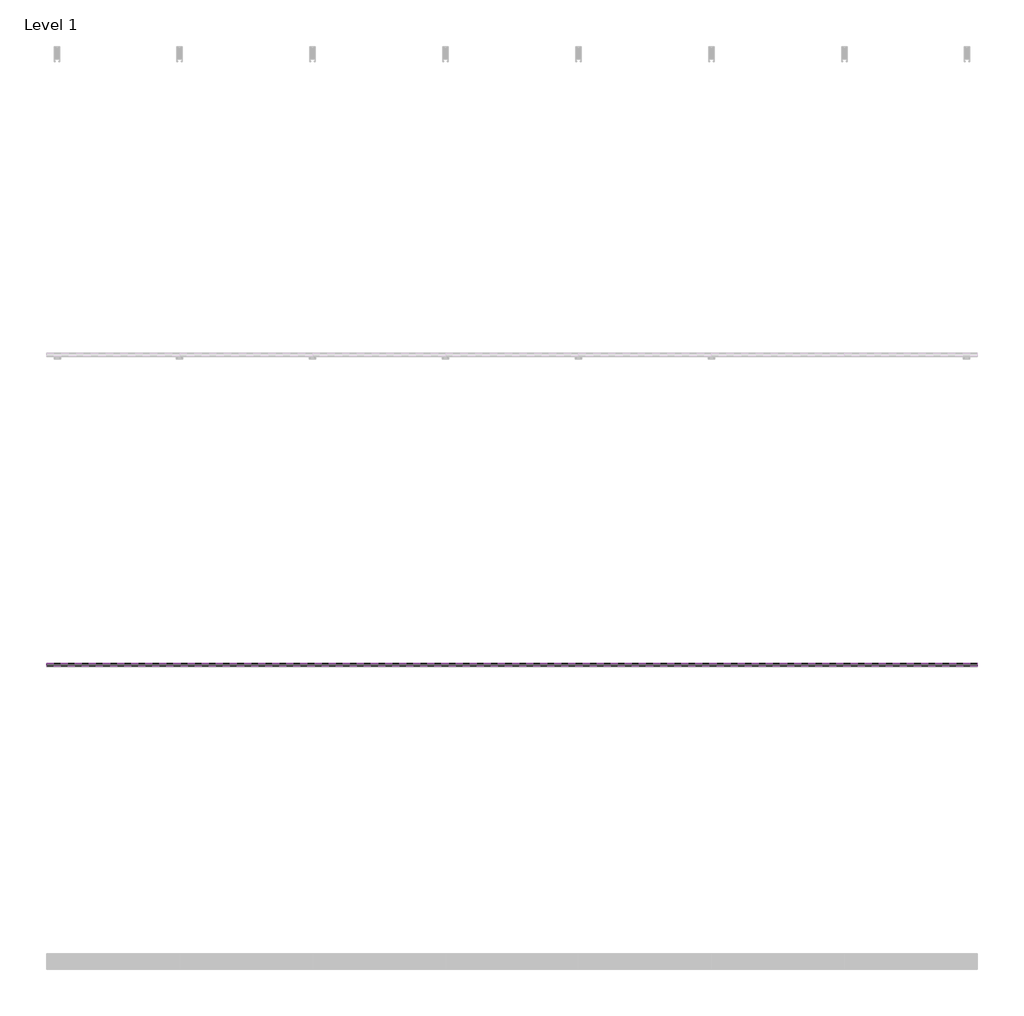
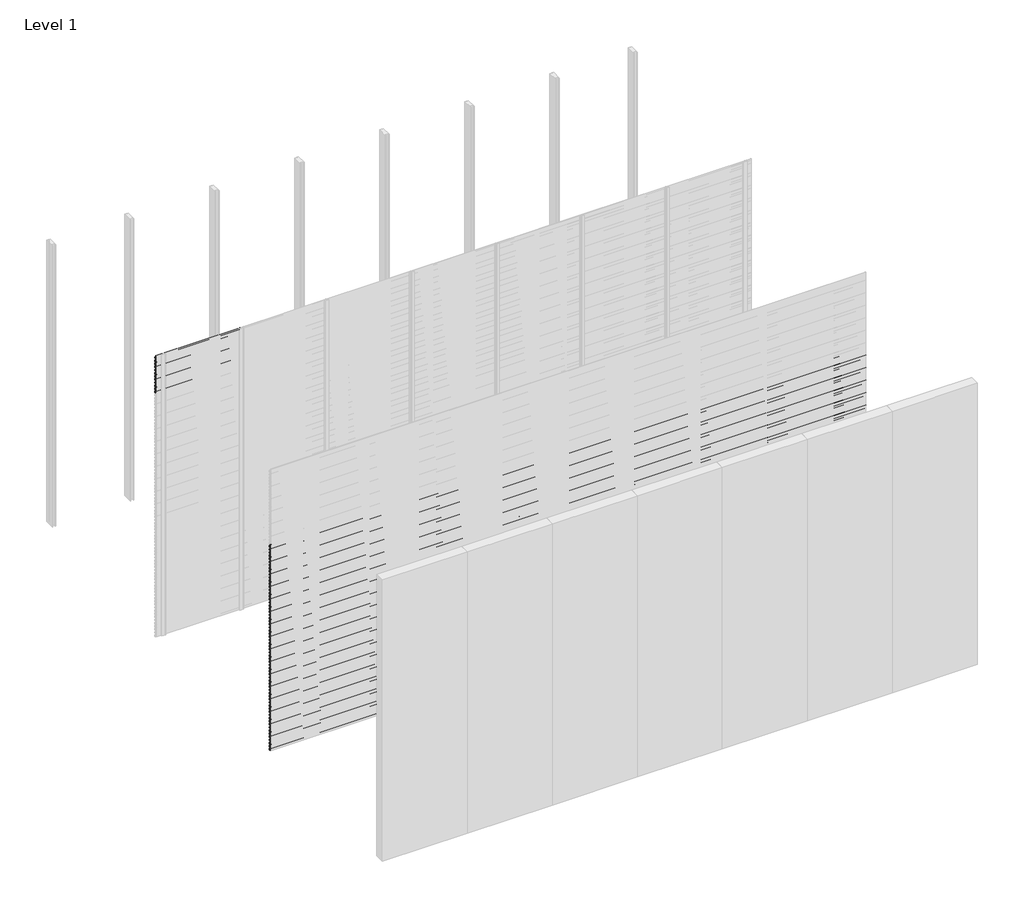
# One storey, part 51 of 96: 78 proxies.
"""IFC4 building model written with IfcOpenShell, lengths in millimetres."""

import ifcopenshell
import ifcopenshell.guid

model = None  # the IFC model being written
_history = None  # IfcOwnerHistory: only IFC2X3 demands one
_inside = {}  # id of a spatial element -> (the spatial element, [elements in it])
_under = {}  # id of a project, library or spatial element -> (it, [spatial elements below it])
_declared = {}  # id of a project -> (the project, [libraries it declares])
_typed = {}  # id of a type object -> (the type object, [elements of that type])
_made_of = {}  # id of a material, layer set ... -> (it, [elements and type objects made of it])


def new_model(schema):
    """Start an empty IFC model of exactly this schema.

    Asked for "IFC4X3", IfcOpenShell would pick the latest addendum, in which some entities
    have other attributes; the version numbers below select the first issue.
    IFC2X3 requires an IfcOwnerHistory on every rooted entity: one is made here for all.
    """
    global model, _history
    if schema == "IFC4X3":
        model = ifcopenshell.file(schema_version=(4, 3, 0, 0))
    else:
        model = ifcopenshell.file(schema=schema)
    _inside.clear()
    _under.clear()
    _declared.clear()
    _typed.clear()
    _made_of.clear()
    _history = None
    if model.schema == "IFC2X3":
        org = make("IfcOrganization", Name="unknown")
        user = make(
            "IfcPersonAndOrganization",
            ThePerson=make("IfcPerson", FamilyName="unknown"),
            TheOrganization=org,
        )
        app = make(
            "IfcApplication",
            ApplicationDeveloper=org,
            Version="unknown",
            ApplicationFullName="unknown",
            ApplicationIdentifier="unknown",
        )
        _history = make(
            "IfcOwnerHistory",
            OwningUser=user,
            OwningApplication=app,
            ChangeAction="ADDED",
            CreationDate=0,
        )
    return model


def make(cls, **values):
    """One entity of the class cls with the attributes given. An attribute that is None is left unset."""
    return model.create_entity(
        cls, **{name: value for name, value in values.items() if value is not None}
    )


def rooted(cls, **values):
    """An entity with a GlobalId (a new one), such as an element, a storey or a relation."""
    return make(cls, GlobalId=ifcopenshell.guid.new(), OwnerHistory=_history, **values)


def si_unit(unit_type, name, prefix=None):
    """IfcSIUnit, for example si_unit("LENGTHUNIT", "METRE", prefix="MILLI")."""
    return make("IfcSIUnit", UnitType=unit_type, Prefix=prefix, Name=name)


def assignment(units):
    """IfcUnitAssignment: the units of a project."""
    return None if units is None else make("IfcUnitAssignment", Units=units)


def point(xyz):
    """IfcCartesianPoint."""
    return None if xyz is None else make("IfcCartesianPoint", Coordinates=xyz)


def direction(xyz):
    """IfcDirection."""
    return None if xyz is None else make("IfcDirection", DirectionRatios=xyz)


def frame(location, z_axis=None, x_axis=None):
    """IfcAxis2Placement3D, a coordinate frame: its origin and axes. An axis left out is left unset."""
    return make(
        "IfcAxis2Placement3D",
        Location=point(location),
        Axis=direction(z_axis),
        RefDirection=direction(x_axis),
    )


def origin():
    """The frame at (0, 0, 0) with its axes left unset."""
    return frame((0.0, 0.0, 0.0))


def place(relative_to, where):
    """IfcLocalPlacement: puts the frame where relative to a parent placement (None: the world)."""
    return make(
        "IfcLocalPlacement", PlacementRelTo=relative_to, RelativePlacement=where
    )


def context(
    kind, dimensions, precision=None, world=None, true_north=None, identifier=None
):
    """IfcGeometricRepresentationContext, for example the 3D "Model" context."""
    return make(
        "IfcGeometricRepresentationContext",
        ContextIdentifier=identifier,
        ContextType=kind,
        CoordinateSpaceDimension=dimensions,
        Precision=precision,
        WorldCoordinateSystem=world,
        TrueNorth=true_north,
    )


def project(units=None, contexts=None):
    """IfcProject with its units and contexts."""
    return rooted(
        "IfcProject",
        Name="project",
        RepresentationContexts=contexts,
        UnitsInContext=assignment(units),
    )


def spatial(cls, under=None, at=None, **own):
    """A site, building, storey or space (cls), placed at a placement, below another one or the project."""
    s = rooted(cls, ObjectPlacement=at, **own)
    if under is not None:
        _under.setdefault(under.id(), (under, []))[1].append(s)
    return s


def polyline(points):
    """IfcPolyline through the points."""
    return make("IfcPolyline", Points=[point(p) for p in points])


def outline(outer, holes=None, kind="AREA"):
    """IfcArbitraryClosedProfileDef: a profile drawn as a closed curve; with holes, ...WithVoids."""
    if holes is None:
        return make("IfcArbitraryClosedProfileDef", ProfileType=kind, OuterCurve=outer)
    return make(
        "IfcArbitraryProfileDefWithVoids",
        ProfileType=kind,
        OuterCurve=outer,
        InnerCurves=holes,
    )


def extrude(swept, where, along, depth):
    """IfcExtrudedAreaSolid: the profile swept, set in the frame where, extruded along a direction by depth."""
    return make(
        "IfcExtrudedAreaSolid",
        SweptArea=swept,
        Position=where,
        ExtrudedDirection=direction(along),
        Depth=depth,
    )


def shape(context_of_items, identifier, shape_type, items):
    """IfcShapeRepresentation: the items that make up one representation, for example the "Body"."""
    return make(
        "IfcShapeRepresentation",
        ContextOfItems=context_of_items,
        RepresentationIdentifier=identifier,
        RepresentationType=shape_type,
        Items=items,
    )


def made_of(thing, what):
    """Note that an element or type object is made of a material, layer set ...; save() writes the relation."""
    if what is not None:
        _made_of.setdefault(what.id(), (what, []))[1].append(thing)
    return thing


def element(
    cls,
    number,
    at=None,
    inside=None,
    cuts=None,
    type_object=None,
    material=None,
    context=None,
    identifier="Body",
    shape_type=None,
    held_by="IfcProductDefinitionShape",
    body=None,
    shapes=None,
    **own,
):
    """One element of the class cls, such as IfcWall. Its Tag is "e" and its number.

    at: its placement. inside: the storey or other place that contains it. cuts: it is an
    opening in that element (IfcRelVoidsElement). A single representation is given by context,
    identifier, shape_type and body (its items); several are given by shapes. held_by: the class
    of the entity that holds the representations. save() writes the other relations.
    """
    e = rooted(cls, Tag="e%d" % number, ObjectPlacement=at, **own)
    if body is not None:
        shapes = [shape(context, identifier, shape_type, body)]
    if shapes is not None:
        e.Representation = make(held_by, Representations=shapes)
    if inside is not None:
        _inside.setdefault(inside.id(), (inside, []))[1].append(e)
    if cuts is not None:
        rooted(
            "IfcRelVoidsElement", RelatingBuildingElement=cuts, RelatedOpeningElement=e
        )
    if type_object is not None:
        _typed.setdefault(type_object.id(), (type_object, []))[1].append(e)
    return made_of(e, material)


def aggregate(whole, parts):
    """IfcRelAggregates: a whole, such as a stair, and the parts it consists of."""
    return rooted("IfcRelAggregates", RelatingObject=whole, RelatedObjects=parts)


def save(model, path):
    """Write the relations noted so far, then the file.

    IfcRelAggregates (storeys below a building ...), IfcRelContainedInSpatialStructure (elements
    in a storey), IfcRelDefinesByType, IfcRelAssociatesMaterial and IfcRelDeclares: one each for
    every whole, place, type object, material and project.
    """
    for whole, parts in _under.values():
        aggregate(whole, parts)
    for where, things in _inside.values():
        rooted(
            "IfcRelContainedInSpatialStructure",
            RelatedElements=things,
            RelatingStructure=where,
        )
    for kind, things in _typed.values():
        rooted("IfcRelDefinesByType", RelatedObjects=things, RelatingType=kind)
    for what, things in _made_of.values():
        rooted("IfcRelAssociatesMaterial", RelatedObjects=things, RelatingMaterial=what)
    for by, libraries in _declared.values():
        rooted("IfcRelDeclares", RelatingContext=by, RelatedDefinitions=libraries)
    model.write(path)


model = new_model("IFC4")

# Units and contexts
model_context = context("Model", 3, world=origin())
ifc_project = project(units=[si_unit("LENGTHUNIT", "METRE", prefix="MILLI")], contexts=[model_context])

# Site, building, storey
site = spatial("IfcSite", under=ifc_project)
building = spatial("IfcBuilding", under=site)
storey = spatial("IfcBuildingStorey", under=building, Name="Level 1", Elevation=0.0)

# Proxies
placement = place(None, origin())
element("IfcBuildingElementProxy", 1, Name="Wall Sweeps", at=placement, inside=storey, context=model_context, shape_type="SweptSolid", body=[
    extrude(outline(polyline([(-23977.6, 2971.7655033), (-23977.6, 2957.4779188), (-23982.4114965, 2954.7), (-23982.4114965, 2955.9701706), (-23978.85, 2958.0264016), (-23978.85, 2971.0437382), (-23998.0, 2982.1000799), (-23998.0, 2997.0), (-23996.75, 2997.0), (-23996.75, 2982.8217609), (-23977.6, 2971.7655033)])), frame((0.0, 0.0, 0.0), z_axis=(1.0, 0.0, 0.0), x_axis=(0.0, 1.0, 0.0)), (0.0, 0.0, 1.0), 857.1428571),
])
element("IfcBuildingElementProxy", 2, Name="Wall Sweeps", at=placement, inside=storey, context=model_context, shape_type="SweptSolid", body=[
    extrude(outline(polyline([(-23977.6, 2938.4655033), (-23977.6, 2924.1779188), (-23982.4114965, 2921.4), (-23982.4114965, 2922.6701706), (-23978.85, 2924.7264016), (-23978.85, 2937.7437382), (-23998.0, 2948.8000799), (-23998.0, 2963.7), (-23996.75, 2963.7), (-23996.75, 2949.5217609), (-23977.6, 2938.4655033)])), frame((0.0, 0.0, 0.0), z_axis=(1.0, 0.0, 0.0), x_axis=(0.0, 1.0, 0.0)), (0.0, 0.0, 1.0), 857.1428571),
])
element("IfcBuildingElementProxy", 3, Name="Wall Sweeps", at=placement, inside=storey, context=model_context, shape_type="SweptSolid", body=[
    extrude(outline(polyline([(-23977.6, 2905.1655033), (-23977.6, 2890.8779188), (-23982.4114965, 2888.1), (-23982.4114965, 2889.3701706), (-23978.85, 2891.4264016), (-23978.85, 2904.4437382), (-23998.0, 2915.5000799), (-23998.0, 2930.4), (-23996.75, 2930.4), (-23996.75, 2916.2217609), (-23977.6, 2905.1655033)])), frame((0.0, 0.0, 0.0), z_axis=(1.0, 0.0, 0.0), x_axis=(0.0, 1.0, 0.0)), (0.0, 0.0, 1.0), 857.1428571),
])
element("IfcBuildingElementProxy", 4, Name="Wall Sweeps", at=placement, inside=storey, context=model_context, shape_type="SweptSolid", body=[
    extrude(outline(polyline([(-23977.6, 2871.8655033), (-23977.6, 2857.5779188), (-23982.4114965, 2854.8), (-23982.4114965, 2856.0701706), (-23978.85, 2858.1264016), (-23978.85, 2871.1437382), (-23998.0, 2882.2000799), (-23998.0, 2897.1), (-23996.75, 2897.1), (-23996.75, 2882.9217609), (-23977.6, 2871.8655033)])), frame((0.0, 0.0, 0.0), z_axis=(1.0, 0.0, 0.0), x_axis=(0.0, 1.0, 0.0)), (0.0, 0.0, 1.0), 857.1428571),
])
element("IfcBuildingElementProxy", 5, Name="Wall Sweeps", at=placement, inside=storey, context=model_context, shape_type="SweptSolid", body=[
    extrude(outline(polyline([(-23977.6, 2838.5655033), (-23977.6, 2824.2779188), (-23982.4114965, 2821.5), (-23982.4114965, 2822.7701706), (-23978.85, 2824.8264016), (-23978.85, 2837.8437382), (-23998.0, 2848.9000799), (-23998.0, 2863.8), (-23996.75, 2863.8), (-23996.75, 2849.6217609), (-23977.6, 2838.5655033)])), frame((0.0, 0.0, 0.0), z_axis=(1.0, 0.0, 0.0), x_axis=(0.0, 1.0, 0.0)), (0.0, 0.0, 1.0), 857.1428571),
])
element("IfcBuildingElementProxy", 6, Name="Wall Sweeps", at=placement, inside=storey, context=model_context, shape_type="SweptSolid", body=[
    extrude(outline(polyline([(-23977.6, 2805.2655033), (-23977.6, 2790.9779188), (-23982.4114965, 2788.2), (-23982.4114965, 2789.4701706), (-23978.85, 2791.5264016), (-23978.85, 2804.5437382), (-23998.0, 2815.6000799), (-23998.0, 2830.5), (-23996.75, 2830.5), (-23996.75, 2816.3217609), (-23977.6, 2805.2655033)])), frame((0.0, 0.0, 0.0), z_axis=(1.0, 0.0, 0.0), x_axis=(0.0, 1.0, 0.0)), (0.0, 0.0, 1.0), 857.1428571),
])
element("IfcBuildingElementProxy", 7, Name="Wall Sweeps", at=placement, inside=storey, context=model_context, shape_type="SweptSolid", body=[
    extrude(outline(polyline([(-23977.6, 2771.9655033), (-23977.6, 2757.6779188), (-23982.4114965, 2754.9), (-23982.4114965, 2756.1701706), (-23978.85, 2758.2264016), (-23978.85, 2771.2437382), (-23998.0, 2782.3000799), (-23998.0, 2797.2), (-23996.75, 2797.2), (-23996.75, 2783.0217609), (-23977.6, 2771.9655033)])), frame((0.0, 0.0, 0.0), z_axis=(1.0, 0.0, 0.0), x_axis=(0.0, 1.0, 0.0)), (0.0, 0.0, 1.0), 857.1428571),
])
element("IfcBuildingElementProxy", 8, Name="Wall Sweeps", at=placement, inside=storey, context=model_context, shape_type="SweptSolid", body=[
    extrude(outline(polyline([(-23977.6, 2738.6655033), (-23977.6, 2724.3779188), (-23982.4114965, 2721.6), (-23982.4114965, 2722.8701706), (-23978.85, 2724.9264016), (-23978.85, 2737.9437382), (-23998.0, 2749.0000799), (-23998.0, 2763.9), (-23996.75, 2763.9), (-23996.75, 2749.7217609), (-23977.6, 2738.6655033)])), frame((0.0, 0.0, 0.0), z_axis=(1.0, 0.0, 0.0), x_axis=(0.0, 1.0, 0.0)), (0.0, 0.0, 1.0), 857.1428571),
])
element("IfcBuildingElementProxy", 9, Name="Wall Sweeps", at=placement, inside=storey, context=model_context, shape_type="SweptSolid", body=[
    extrude(outline(polyline([(-23977.6, 2705.3655033), (-23977.6, 2691.0779188), (-23982.4114965, 2688.3), (-23982.4114965, 2689.5701706), (-23978.85, 2691.6264016), (-23978.85, 2704.6437382), (-23998.0, 2715.7000799), (-23998.0, 2730.6), (-23996.75, 2730.6), (-23996.75, 2716.4217609), (-23977.6, 2705.3655033)])), frame((0.0, 0.0, 0.0), z_axis=(1.0, 0.0, 0.0), x_axis=(0.0, 1.0, 0.0)), (0.0, 0.0, 1.0), 857.1428571),
])
element("IfcBuildingElementProxy", 10, Name="Wall Sweeps", at=placement, inside=storey, context=model_context, shape_type="SweptSolid", body=[
    extrude(outline(polyline([(-23977.6, 2672.0655033), (-23977.6, 2657.7779188), (-23982.4114965, 2655.0), (-23982.4114965, 2656.2701706), (-23978.85, 2658.3264016), (-23978.85, 2671.3437382), (-23998.0, 2682.4000799), (-23998.0, 2697.3), (-23996.75, 2697.3), (-23996.75, 2683.1217609), (-23977.6, 2672.0655033)])), frame((0.0, 0.0, 0.0), z_axis=(1.0, 0.0, 0.0), x_axis=(0.0, 1.0, 0.0)), (0.0, 0.0, 1.0), 857.1428571),
])
element("IfcBuildingElementProxy", 11, Name="Wall Sweeps", at=placement, inside=storey, context=model_context, shape_type="SweptSolid", body=[
    extrude(outline(polyline([(-23977.6, 2638.7655033), (-23977.6, 2624.4779188), (-23982.4114965, 2621.7), (-23982.4114965, 2622.9701706), (-23978.85, 2625.0264016), (-23978.85, 2638.0437382), (-23998.0, 2649.1000799), (-23998.0, 2664.0), (-23996.75, 2664.0), (-23996.75, 2649.8217609), (-23977.6, 2638.7655033)])), frame((0.0, 0.0, 0.0), z_axis=(1.0, 0.0, 0.0), x_axis=(0.0, 1.0, 0.0)), (0.0, 0.0, 1.0), 857.1428571),
])
element("IfcBuildingElementProxy", 12, Name="Wall Sweeps", at=placement, inside=storey, context=model_context, shape_type="SweptSolid", body=[
    extrude(outline(polyline([(-23977.6, 2605.4655033), (-23977.6, 2591.1779188), (-23982.4114965, 2588.4), (-23982.4114965, 2589.6701706), (-23978.85, 2591.7264016), (-23978.85, 2604.7437382), (-23998.0, 2615.8000799), (-23998.0, 2630.7), (-23996.75, 2630.7), (-23996.75, 2616.5217609), (-23977.6, 2605.4655033)])), frame((0.0, 0.0, 0.0), z_axis=(1.0, 0.0, 0.0), x_axis=(0.0, 1.0, 0.0)), (0.0, 0.0, 1.0), 857.1428571),
])
element("IfcBuildingElementProxy", 13, Name="Wall Sweeps", at=placement, inside=storey, context=model_context, shape_type="SweptSolid", body=[
    extrude(outline(polyline([(-25977.6, 2172.5655033), (-25977.6, 2158.2779188), (-25982.4114965, 2155.5), (-25982.4114965, 2156.7701706), (-25978.85, 2158.8264016), (-25978.85, 2171.8437382), (-25998.0, 2182.9000799), (-25998.0, 2197.8), (-25996.75, 2197.8), (-25996.75, 2183.6217609), (-25977.6, 2172.5655033)])), frame((0.0, 0.0, 0.0), z_axis=(1.0, 0.0, 0.0), x_axis=(0.0, 1.0, 0.0)), (0.0, 0.0, 1.0), 6000.0),
])
element("IfcBuildingElementProxy", 14, Name="Wall Sweeps", at=placement, inside=storey, context=model_context, shape_type="SweptSolid", body=[
    extrude(outline(polyline([(-25977.6, 2139.2655033), (-25977.6, 2124.9779188), (-25982.4114965, 2122.2), (-25982.4114965, 2123.4701706), (-25978.85, 2125.5264016), (-25978.85, 2138.5437382), (-25998.0, 2149.6000799), (-25998.0, 2164.5), (-25996.75, 2164.5), (-25996.75, 2150.3217609), (-25977.6, 2139.2655033)])), frame((0.0, 0.0, 0.0), z_axis=(1.0, 0.0, 0.0), x_axis=(0.0, 1.0, 0.0)), (0.0, 0.0, 1.0), 6000.0),
])
element("IfcBuildingElementProxy", 15, Name="Wall Sweeps", at=placement, inside=storey, context=model_context, shape_type="SweptSolid", body=[
    extrude(outline(polyline([(-25977.6, 2105.9655033), (-25977.6, 2091.6779188), (-25982.4114965, 2088.9), (-25982.4114965, 2090.1701706), (-25978.85, 2092.2264016), (-25978.85, 2105.2437382), (-25998.0, 2116.3000799), (-25998.0, 2131.2), (-25996.75, 2131.2), (-25996.75, 2117.0217609), (-25977.6, 2105.9655033)])), frame((0.0, 0.0, 0.0), z_axis=(1.0, 0.0, 0.0), x_axis=(0.0, 1.0, 0.0)), (0.0, 0.0, 1.0), 6000.0),
])
element("IfcBuildingElementProxy", 16, Name="Wall Sweeps", at=placement, inside=storey, context=model_context, shape_type="SweptSolid", body=[
    extrude(outline(polyline([(-25977.6, 2072.6655033), (-25977.6, 2058.3779188), (-25982.4114965, 2055.6), (-25982.4114965, 2056.8701706), (-25978.85, 2058.9264016), (-25978.85, 2071.9437382), (-25998.0, 2083.0000799), (-25998.0, 2097.9), (-25996.75, 2097.9), (-25996.75, 2083.7217609), (-25977.6, 2072.6655033)])), frame((0.0, 0.0, 0.0), z_axis=(1.0, 0.0, 0.0), x_axis=(0.0, 1.0, 0.0)), (0.0, 0.0, 1.0), 6000.0),
])
element("IfcBuildingElementProxy", 17, Name="Wall Sweeps", at=placement, inside=storey, context=model_context, shape_type="SweptSolid", body=[
    extrude(outline(polyline([(-25977.6, 2039.3655033), (-25977.6, 2025.0779188), (-25982.4114965, 2022.3), (-25982.4114965, 2023.5701706), (-25978.85, 2025.6264016), (-25978.85, 2038.6437382), (-25998.0, 2049.7000799), (-25998.0, 2064.6), (-25996.75, 2064.6), (-25996.75, 2050.4217609), (-25977.6, 2039.3655033)])), frame((0.0, 0.0, 0.0), z_axis=(1.0, 0.0, 0.0), x_axis=(0.0, 1.0, 0.0)), (0.0, 0.0, 1.0), 6000.0),
])
element("IfcBuildingElementProxy", 18, Name="Wall Sweeps", at=placement, inside=storey, context=model_context, shape_type="SweptSolid", body=[
    extrude(outline(polyline([(-25977.6, 2006.0655033), (-25977.6, 1991.7779188), (-25982.4114965, 1989.0), (-25982.4114965, 1990.2701706), (-25978.85, 1992.3264016), (-25978.85, 2005.3437382), (-25998.0, 2016.4000799), (-25998.0, 2031.3), (-25996.75, 2031.3), (-25996.75, 2017.1217609), (-25977.6, 2006.0655033)])), frame((0.0, 0.0, 0.0), z_axis=(1.0, 0.0, 0.0), x_axis=(0.0, 1.0, 0.0)), (0.0, 0.0, 1.0), 6000.0),
])
element("IfcBuildingElementProxy", 19, Name="Wall Sweeps", at=placement, inside=storey, context=model_context, shape_type="SweptSolid", body=[
    extrude(outline(polyline([(-25977.6, 1972.7655033), (-25977.6, 1958.4779188), (-25982.4114965, 1955.7), (-25982.4114965, 1956.9701706), (-25978.85, 1959.0264016), (-25978.85, 1972.0437382), (-25998.0, 1983.1000799), (-25998.0, 1998.0), (-25996.75, 1998.0), (-25996.75, 1983.8217609), (-25977.6, 1972.7655033)])), frame((0.0, 0.0, 0.0), z_axis=(1.0, 0.0, 0.0), x_axis=(0.0, 1.0, 0.0)), (0.0, 0.0, 1.0), 6000.0),
])
element("IfcBuildingElementProxy", 20, Name="Wall Sweeps", at=placement, inside=storey, context=model_context, shape_type="SweptSolid", body=[
    extrude(outline(polyline([(-25977.6, 1939.4655033), (-25977.6, 1925.1779188), (-25982.4114965, 1922.4), (-25982.4114965, 1923.6701706), (-25978.85, 1925.7264016), (-25978.85, 1938.7437382), (-25998.0, 1949.8000799), (-25998.0, 1964.7), (-25996.75, 1964.7), (-25996.75, 1950.5217609), (-25977.6, 1939.4655033)])), frame((0.0, 0.0, 0.0), z_axis=(1.0, 0.0, 0.0), x_axis=(0.0, 1.0, 0.0)), (0.0, 0.0, 1.0), 6000.0),
])
element("IfcBuildingElementProxy", 21, Name="Wall Sweeps", at=placement, inside=storey, context=model_context, shape_type="SweptSolid", body=[
    extrude(outline(polyline([(-25977.6, 1906.1655033), (-25977.6, 1891.8779188), (-25982.4114965, 1889.1), (-25982.4114965, 1890.3701706), (-25978.85, 1892.4264016), (-25978.85, 1905.4437382), (-25998.0, 1916.5000799), (-25998.0, 1931.4), (-25996.75, 1931.4), (-25996.75, 1917.2217609), (-25977.6, 1906.1655033)])), frame((0.0, 0.0, 0.0), z_axis=(1.0, 0.0, 0.0), x_axis=(0.0, 1.0, 0.0)), (0.0, 0.0, 1.0), 6000.0),
])
element("IfcBuildingElementProxy", 22, Name="Wall Sweeps", at=placement, inside=storey, context=model_context, shape_type="SweptSolid", body=[
    extrude(outline(polyline([(-25977.6, 1872.8655033), (-25977.6, 1858.5779188), (-25982.4114965, 1855.8), (-25982.4114965, 1857.0701706), (-25978.85, 1859.1264016), (-25978.85, 1872.1437382), (-25998.0, 1883.2000799), (-25998.0, 1898.1), (-25996.75, 1898.1), (-25996.75, 1883.9217609), (-25977.6, 1872.8655033)])), frame((0.0, 0.0, 0.0), z_axis=(1.0, 0.0, 0.0), x_axis=(0.0, 1.0, 0.0)), (0.0, 0.0, 1.0), 6000.0),
])
element("IfcBuildingElementProxy", 23, Name="Wall Sweeps", at=placement, inside=storey, context=model_context, shape_type="SweptSolid", body=[
    extrude(outline(polyline([(-25977.6, 1839.5655033), (-25977.6, 1825.2779188), (-25982.4114965, 1822.5), (-25982.4114965, 1823.7701706), (-25978.85, 1825.8264016), (-25978.85, 1838.8437382), (-25998.0, 1849.9000799), (-25998.0, 1864.8), (-25996.75, 1864.8), (-25996.75, 1850.6217609), (-25977.6, 1839.5655033)])), frame((0.0, 0.0, 0.0), z_axis=(1.0, 0.0, 0.0), x_axis=(0.0, 1.0, 0.0)), (0.0, 0.0, 1.0), 6000.0),
])
element("IfcBuildingElementProxy", 24, Name="Wall Sweeps", at=placement, inside=storey, context=model_context, shape_type="SweptSolid", body=[
    extrude(outline(polyline([(-25977.6, 1806.2655033), (-25977.6, 1791.9779188), (-25982.4114965, 1789.2), (-25982.4114965, 1790.4701706), (-25978.85, 1792.5264016), (-25978.85, 1805.5437382), (-25998.0, 1816.6000799), (-25998.0, 1831.5), (-25996.75, 1831.5), (-25996.75, 1817.3217609), (-25977.6, 1806.2655033)])), frame((0.0, 0.0, 0.0), z_axis=(1.0, 0.0, 0.0), x_axis=(0.0, 1.0, 0.0)), (0.0, 0.0, 1.0), 6000.0),
])
element("IfcBuildingElementProxy", 25, Name="Wall Sweeps", at=placement, inside=storey, context=model_context, shape_type="SweptSolid", body=[
    extrude(outline(polyline([(-25977.6, 1772.9655033), (-25977.6, 1758.6779188), (-25982.4114965, 1755.9), (-25982.4114965, 1757.1701706), (-25978.85, 1759.2264016), (-25978.85, 1772.2437382), (-25998.0, 1783.3000799), (-25998.0, 1798.2), (-25996.75, 1798.2), (-25996.75, 1784.0217609), (-25977.6, 1772.9655033)])), frame((0.0, 0.0, 0.0), z_axis=(1.0, 0.0, 0.0), x_axis=(0.0, 1.0, 0.0)), (0.0, 0.0, 1.0), 6000.0),
])
element("IfcBuildingElementProxy", 26, Name="Wall Sweeps", at=placement, inside=storey, context=model_context, shape_type="SweptSolid", body=[
    extrude(outline(polyline([(-25977.6, 1739.6655033), (-25977.6, 1725.3779188), (-25982.4114965, 1722.6), (-25982.4114965, 1723.8701706), (-25978.85, 1725.9264016), (-25978.85, 1738.9437382), (-25998.0, 1750.0000799), (-25998.0, 1764.9), (-25996.75, 1764.9), (-25996.75, 1750.7217609), (-25977.6, 1739.6655033)])), frame((0.0, 0.0, 0.0), z_axis=(1.0, 0.0, 0.0), x_axis=(0.0, 1.0, 0.0)), (0.0, 0.0, 1.0), 6000.0),
])
element("IfcBuildingElementProxy", 27, Name="Wall Sweeps", at=placement, inside=storey, context=model_context, shape_type="SweptSolid", body=[
    extrude(outline(polyline([(-25977.6, 1706.3655033), (-25977.6, 1692.0779188), (-25982.4114965, 1689.3), (-25982.4114965, 1690.5701706), (-25978.85, 1692.6264016), (-25978.85, 1705.6437382), (-25998.0, 1716.7000799), (-25998.0, 1731.6), (-25996.75, 1731.6), (-25996.75, 1717.4217609), (-25977.6, 1706.3655033)])), frame((0.0, 0.0, 0.0), z_axis=(1.0, 0.0, 0.0), x_axis=(0.0, 1.0, 0.0)), (0.0, 0.0, 1.0), 6000.0),
])
element("IfcBuildingElementProxy", 28, Name="Wall Sweeps", at=placement, inside=storey, context=model_context, shape_type="SweptSolid", body=[
    extrude(outline(polyline([(-25977.6, 1673.0655033), (-25977.6, 1658.7779188), (-25982.4114965, 1656.0), (-25982.4114965, 1657.2701706), (-25978.85, 1659.3264016), (-25978.85, 1672.3437382), (-25998.0, 1683.4000799), (-25998.0, 1698.3), (-25996.75, 1698.3), (-25996.75, 1684.1217609), (-25977.6, 1673.0655033)])), frame((0.0, 0.0, 0.0), z_axis=(1.0, 0.0, 0.0), x_axis=(0.0, 1.0, 0.0)), (0.0, 0.0, 1.0), 6000.0),
])
element("IfcBuildingElementProxy", 29, Name="Wall Sweeps", at=placement, inside=storey, context=model_context, shape_type="SweptSolid", body=[
    extrude(outline(polyline([(-25977.6, 1639.7655033), (-25977.6, 1625.4779188), (-25982.4114965, 1622.7), (-25982.4114965, 1623.9701706), (-25978.85, 1626.0264016), (-25978.85, 1639.0437382), (-25998.0, 1650.1000799), (-25998.0, 1665.0), (-25996.75, 1665.0), (-25996.75, 1650.8217609), (-25977.6, 1639.7655033)])), frame((0.0, 0.0, 0.0), z_axis=(1.0, 0.0, 0.0), x_axis=(0.0, 1.0, 0.0)), (0.0, 0.0, 1.0), 6000.0),
])
element("IfcBuildingElementProxy", 30, Name="Wall Sweeps", at=placement, inside=storey, context=model_context, shape_type="SweptSolid", body=[
    extrude(outline(polyline([(-25977.6, 1606.4655033), (-25977.6, 1592.1779188), (-25982.4114965, 1589.4), (-25982.4114965, 1590.6701706), (-25978.85, 1592.7264016), (-25978.85, 1605.7437382), (-25998.0, 1616.8000799), (-25998.0, 1631.7), (-25996.75, 1631.7), (-25996.75, 1617.5217609), (-25977.6, 1606.4655033)])), frame((0.0, 0.0, 0.0), z_axis=(1.0, 0.0, 0.0), x_axis=(0.0, 1.0, 0.0)), (0.0, 0.0, 1.0), 6000.0),
])
element("IfcBuildingElementProxy", 31, Name="Wall Sweeps", at=placement, inside=storey, context=model_context, shape_type="SweptSolid", body=[
    extrude(outline(polyline([(-25977.6, 1573.1655033), (-25977.6, 1558.8779188), (-25982.4114965, 1556.1), (-25982.4114965, 1557.3701706), (-25978.85, 1559.4264016), (-25978.85, 1572.4437382), (-25998.0, 1583.5000799), (-25998.0, 1598.4), (-25996.75, 1598.4), (-25996.75, 1584.2217609), (-25977.6, 1573.1655033)])), frame((0.0, 0.0, 0.0), z_axis=(1.0, 0.0, 0.0), x_axis=(0.0, 1.0, 0.0)), (0.0, 0.0, 1.0), 6000.0),
])
element("IfcBuildingElementProxy", 32, Name="Wall Sweeps", at=placement, inside=storey, context=model_context, shape_type="SweptSolid", body=[
    extrude(outline(polyline([(-25977.6, 1539.8655033), (-25977.6, 1525.5779188), (-25982.4114965, 1522.8), (-25982.4114965, 1524.0701706), (-25978.85, 1526.1264016), (-25978.85, 1539.1437382), (-25998.0, 1550.2000799), (-25998.0, 1565.1), (-25996.75, 1565.1), (-25996.75, 1550.9217609), (-25977.6, 1539.8655033)])), frame((0.0, 0.0, 0.0), z_axis=(1.0, 0.0, 0.0), x_axis=(0.0, 1.0, 0.0)), (0.0, 0.0, 1.0), 6000.0),
])
element("IfcBuildingElementProxy", 33, Name="Wall Sweeps", at=placement, inside=storey, context=model_context, shape_type="SweptSolid", body=[
    extrude(outline(polyline([(-25977.6, 1506.5655033), (-25977.6, 1492.2779188), (-25982.4114965, 1489.5), (-25982.4114965, 1490.7701706), (-25978.85, 1492.8264016), (-25978.85, 1505.8437382), (-25998.0, 1516.9000799), (-25998.0, 1531.8), (-25996.75, 1531.8), (-25996.75, 1517.6217609), (-25977.6, 1506.5655033)])), frame((0.0, 0.0, 0.0), z_axis=(1.0, 0.0, 0.0), x_axis=(0.0, 1.0, 0.0)), (0.0, 0.0, 1.0), 6000.0),
])
element("IfcBuildingElementProxy", 34, Name="Wall Sweeps", at=placement, inside=storey, context=model_context, shape_type="SweptSolid", body=[
    extrude(outline(polyline([(-25977.6, 1473.2655033), (-25977.6, 1458.9779188), (-25982.4114965, 1456.2), (-25982.4114965, 1457.4701706), (-25978.85, 1459.5264016), (-25978.85, 1472.5437382), (-25998.0, 1483.6000799), (-25998.0, 1498.5), (-25996.75, 1498.5), (-25996.75, 1484.3217609), (-25977.6, 1473.2655033)])), frame((0.0, 0.0, 0.0), z_axis=(1.0, 0.0, 0.0), x_axis=(0.0, 1.0, 0.0)), (0.0, 0.0, 1.0), 6000.0),
])
element("IfcBuildingElementProxy", 35, Name="Wall Sweeps", at=placement, inside=storey, context=model_context, shape_type="SweptSolid", body=[
    extrude(outline(polyline([(-25977.6, 1439.9655033), (-25977.6, 1425.6779188), (-25982.4114965, 1422.9), (-25982.4114965, 1424.1701706), (-25978.85, 1426.2264016), (-25978.85, 1439.2437382), (-25998.0, 1450.3000799), (-25998.0, 1465.2), (-25996.75, 1465.2), (-25996.75, 1451.0217609), (-25977.6, 1439.9655033)])), frame((0.0, 0.0, 0.0), z_axis=(1.0, 0.0, 0.0), x_axis=(0.0, 1.0, 0.0)), (0.0, 0.0, 1.0), 6000.0),
])
element("IfcBuildingElementProxy", 36, Name="Wall Sweeps", at=placement, inside=storey, context=model_context, shape_type="SweptSolid", body=[
    extrude(outline(polyline([(-25977.6, 1406.6655033), (-25977.6, 1392.3779188), (-25982.4114965, 1389.6), (-25982.4114965, 1390.8701706), (-25978.85, 1392.9264016), (-25978.85, 1405.9437382), (-25998.0, 1417.0000799), (-25998.0, 1431.9), (-25996.75, 1431.9), (-25996.75, 1417.7217609), (-25977.6, 1406.6655033)])), frame((0.0, 0.0, 0.0), z_axis=(1.0, 0.0, 0.0), x_axis=(0.0, 1.0, 0.0)), (0.0, 0.0, 1.0), 6000.0),
])
element("IfcBuildingElementProxy", 37, Name="Wall Sweeps", at=placement, inside=storey, context=model_context, shape_type="SweptSolid", body=[
    extrude(outline(polyline([(-25977.6, 1373.3655033), (-25977.6, 1359.0779188), (-25982.4114965, 1356.3), (-25982.4114965, 1357.5701706), (-25978.85, 1359.6264016), (-25978.85, 1372.6437382), (-25998.0, 1383.7000799), (-25998.0, 1398.6), (-25996.75, 1398.6), (-25996.75, 1384.4217609), (-25977.6, 1373.3655033)])), frame((0.0, 0.0, 0.0), z_axis=(1.0, 0.0, 0.0), x_axis=(0.0, 1.0, 0.0)), (0.0, 0.0, 1.0), 6000.0),
])
element("IfcBuildingElementProxy", 38, Name="Wall Sweeps", at=placement, inside=storey, context=model_context, shape_type="SweptSolid", body=[
    extrude(outline(polyline([(-25977.6, 1340.0655033), (-25977.6, 1325.7779188), (-25982.4114965, 1323.0), (-25982.4114965, 1324.2701706), (-25978.85, 1326.3264016), (-25978.85, 1339.3437382), (-25998.0, 1350.4000799), (-25998.0, 1365.3), (-25996.75, 1365.3), (-25996.75, 1351.1217609), (-25977.6, 1340.0655033)])), frame((0.0, 0.0, 0.0), z_axis=(1.0, 0.0, 0.0), x_axis=(0.0, 1.0, 0.0)), (0.0, 0.0, 1.0), 6000.0),
])
element("IfcBuildingElementProxy", 39, Name="Wall Sweeps", at=placement, inside=storey, context=model_context, shape_type="SweptSolid", body=[
    extrude(outline(polyline([(-25977.6, 1306.7655033), (-25977.6, 1292.4779188), (-25982.4114965, 1289.7), (-25982.4114965, 1290.9701706), (-25978.85, 1293.0264016), (-25978.85, 1306.0437382), (-25998.0, 1317.1000799), (-25998.0, 1332.0), (-25996.75, 1332.0), (-25996.75, 1317.8217609), (-25977.6, 1306.7655033)])), frame((0.0, 0.0, 0.0), z_axis=(1.0, 0.0, 0.0), x_axis=(0.0, 1.0, 0.0)), (0.0, 0.0, 1.0), 6000.0),
])
element("IfcBuildingElementProxy", 40, Name="Wall Sweeps", at=placement, inside=storey, context=model_context, shape_type="SweptSolid", body=[
    extrude(outline(polyline([(-25977.6, 1273.4655033), (-25977.6, 1259.1779188), (-25982.4114965, 1256.4), (-25982.4114965, 1257.6701706), (-25978.85, 1259.7264016), (-25978.85, 1272.7437382), (-25998.0, 1283.8000799), (-25998.0, 1298.7), (-25996.75, 1298.7), (-25996.75, 1284.5217609), (-25977.6, 1273.4655033)])), frame((0.0, 0.0, 0.0), z_axis=(1.0, 0.0, 0.0), x_axis=(0.0, 1.0, 0.0)), (0.0, 0.0, 1.0), 6000.0),
])
element("IfcBuildingElementProxy", 41, Name="Wall Sweeps", at=placement, inside=storey, context=model_context, shape_type="SweptSolid", body=[
    extrude(outline(polyline([(-25977.6, 1240.1655033), (-25977.6, 1225.8779188), (-25982.4114965, 1223.1), (-25982.4114965, 1224.3701706), (-25978.85, 1226.4264016), (-25978.85, 1239.4437382), (-25998.0, 1250.5000799), (-25998.0, 1265.4), (-25996.75, 1265.4), (-25996.75, 1251.2217609), (-25977.6, 1240.1655033)])), frame((0.0, 0.0, 0.0), z_axis=(1.0, 0.0, 0.0), x_axis=(0.0, 1.0, 0.0)), (0.0, 0.0, 1.0), 6000.0),
])
element("IfcBuildingElementProxy", 42, Name="Wall Sweeps", at=placement, inside=storey, context=model_context, shape_type="SweptSolid", body=[
    extrude(outline(polyline([(-25977.6, 1206.8655033), (-25977.6, 1192.5779188), (-25982.4114965, 1189.8), (-25982.4114965, 1191.0701706), (-25978.85, 1193.1264016), (-25978.85, 1206.1437382), (-25998.0, 1217.2000799), (-25998.0, 1232.1), (-25996.75, 1232.1), (-25996.75, 1217.9217609), (-25977.6, 1206.8655033)])), frame((0.0, 0.0, 0.0), z_axis=(1.0, 0.0, 0.0), x_axis=(0.0, 1.0, 0.0)), (0.0, 0.0, 1.0), 6000.0),
])
element("IfcBuildingElementProxy", 43, Name="Wall Sweeps", at=placement, inside=storey, context=model_context, shape_type="SweptSolid", body=[
    extrude(outline(polyline([(-25977.6, 1173.5655033), (-25977.6, 1159.2779188), (-25982.4114965, 1156.5), (-25982.4114965, 1157.7701706), (-25978.85, 1159.8264016), (-25978.85, 1172.8437382), (-25998.0, 1183.9000799), (-25998.0, 1198.8), (-25996.75, 1198.8), (-25996.75, 1184.6217609), (-25977.6, 1173.5655033)])), frame((0.0, 0.0, 0.0), z_axis=(1.0, 0.0, 0.0), x_axis=(0.0, 1.0, 0.0)), (0.0, 0.0, 1.0), 6000.0),
])
element("IfcBuildingElementProxy", 44, Name="Wall Sweeps", at=placement, inside=storey, context=model_context, shape_type="SweptSolid", body=[
    extrude(outline(polyline([(-25977.6, 1140.2655033), (-25977.6, 1125.9779188), (-25982.4114965, 1123.2), (-25982.4114965, 1124.4701706), (-25978.85, 1126.5264016), (-25978.85, 1139.5437382), (-25998.0, 1150.6000799), (-25998.0, 1165.5), (-25996.75, 1165.5), (-25996.75, 1151.3217609), (-25977.6, 1140.2655033)])), frame((0.0, 0.0, 0.0), z_axis=(1.0, 0.0, 0.0), x_axis=(0.0, 1.0, 0.0)), (0.0, 0.0, 1.0), 6000.0),
])
element("IfcBuildingElementProxy", 45, Name="Wall Sweeps", at=placement, inside=storey, context=model_context, shape_type="SweptSolid", body=[
    extrude(outline(polyline([(-25977.6, 1106.9655033), (-25977.6, 1092.6779188), (-25982.4114965, 1089.9), (-25982.4114965, 1091.1701706), (-25978.85, 1093.2264016), (-25978.85, 1106.2437382), (-25998.0, 1117.3000799), (-25998.0, 1132.2), (-25996.75, 1132.2), (-25996.75, 1118.0217609), (-25977.6, 1106.9655033)])), frame((0.0, 0.0, 0.0), z_axis=(1.0, 0.0, 0.0), x_axis=(0.0, 1.0, 0.0)), (0.0, 0.0, 1.0), 6000.0),
])
element("IfcBuildingElementProxy", 46, Name="Wall Sweeps", at=placement, inside=storey, context=model_context, shape_type="SweptSolid", body=[
    extrude(outline(polyline([(-25977.6, 1073.6655033), (-25977.6, 1059.3779188), (-25982.4114965, 1056.6), (-25982.4114965, 1057.8701706), (-25978.85, 1059.9264016), (-25978.85, 1072.9437382), (-25998.0, 1084.0000799), (-25998.0, 1098.9), (-25996.75, 1098.9), (-25996.75, 1084.7217609), (-25977.6, 1073.6655033)])), frame((0.0, 0.0, 0.0), z_axis=(1.0, 0.0, 0.0), x_axis=(0.0, 1.0, 0.0)), (0.0, 0.0, 1.0), 6000.0),
])
element("IfcBuildingElementProxy", 47, Name="Wall Sweeps", at=placement, inside=storey, context=model_context, shape_type="SweptSolid", body=[
    extrude(outline(polyline([(-25977.6, 1040.3655033), (-25977.6, 1026.0779188), (-25982.4114965, 1023.3), (-25982.4114965, 1024.5701706), (-25978.85, 1026.6264016), (-25978.85, 1039.6437382), (-25998.0, 1050.7000799), (-25998.0, 1065.6), (-25996.75, 1065.6), (-25996.75, 1051.4217609), (-25977.6, 1040.3655033)])), frame((0.0, 0.0, 0.0), z_axis=(1.0, 0.0, 0.0), x_axis=(0.0, 1.0, 0.0)), (0.0, 0.0, 1.0), 6000.0),
])
element("IfcBuildingElementProxy", 48, Name="Wall Sweeps", at=placement, inside=storey, context=model_context, shape_type="SweptSolid", body=[
    extrude(outline(polyline([(-25977.6, 1007.0655033), (-25977.6, 992.7779188), (-25982.4114965, 990.0), (-25982.4114965, 991.2701706), (-25978.85, 993.3264016), (-25978.85, 1006.3437382), (-25998.0, 1017.4000799), (-25998.0, 1032.3), (-25996.75, 1032.3), (-25996.75, 1018.1217609), (-25977.6, 1007.0655033)])), frame((0.0, 0.0, 0.0), z_axis=(1.0, 0.0, 0.0), x_axis=(0.0, 1.0, 0.0)), (0.0, 0.0, 1.0), 6000.0),
])
element("IfcBuildingElementProxy", 49, Name="Wall Sweeps", at=placement, inside=storey, context=model_context, shape_type="SweptSolid", body=[
    extrude(outline(polyline([(-25977.6, 973.7655033), (-25977.6, 959.4779188), (-25982.4114965, 956.7), (-25982.4114965, 957.9701706), (-25978.85, 960.0264016), (-25978.85, 973.0437382), (-25998.0, 984.1000799), (-25998.0, 999.0), (-25996.75, 999.0), (-25996.75, 984.8217609), (-25977.6, 973.7655033)])), frame((0.0, 0.0, 0.0), z_axis=(1.0, 0.0, 0.0), x_axis=(0.0, 1.0, 0.0)), (0.0, 0.0, 1.0), 6000.0),
])
element("IfcBuildingElementProxy", 50, Name="Wall Sweeps", at=placement, inside=storey, context=model_context, shape_type="SweptSolid", body=[
    extrude(outline(polyline([(-25977.6, 940.4655033), (-25977.6, 926.1779188), (-25982.4114965, 923.4), (-25982.4114965, 924.6701706), (-25978.85, 926.7264016), (-25978.85, 939.7437382), (-25998.0, 950.8000799), (-25998.0, 965.7), (-25996.75, 965.7), (-25996.75, 951.5217609), (-25977.6, 940.4655033)])), frame((0.0, 0.0, 0.0), z_axis=(1.0, 0.0, 0.0), x_axis=(0.0, 1.0, 0.0)), (0.0, 0.0, 1.0), 6000.0),
])
element("IfcBuildingElementProxy", 51, Name="Wall Sweeps", at=placement, inside=storey, context=model_context, shape_type="SweptSolid", body=[
    extrude(outline(polyline([(-25977.6, 907.1655033), (-25977.6, 892.8779188), (-25982.4114965, 890.1), (-25982.4114965, 891.3701706), (-25978.85, 893.4264016), (-25978.85, 906.4437382), (-25998.0, 917.5000799), (-25998.0, 932.4), (-25996.75, 932.4), (-25996.75, 918.2217609), (-25977.6, 907.1655033)])), frame((0.0, 0.0, 0.0), z_axis=(1.0, 0.0, 0.0), x_axis=(0.0, 1.0, 0.0)), (0.0, 0.0, 1.0), 6000.0),
])
element("IfcBuildingElementProxy", 52, Name="Wall Sweeps", at=placement, inside=storey, context=model_context, shape_type="SweptSolid", body=[
    extrude(outline(polyline([(-25977.6, 873.8655033), (-25977.6, 859.5779188), (-25982.4114965, 856.8), (-25982.4114965, 858.0701706), (-25978.85, 860.1264016), (-25978.85, 873.1437382), (-25998.0, 884.2000799), (-25998.0, 899.1), (-25996.75, 899.1), (-25996.75, 884.9217609), (-25977.6, 873.8655033)])), frame((0.0, 0.0, 0.0), z_axis=(1.0, 0.0, 0.0), x_axis=(0.0, 1.0, 0.0)), (0.0, 0.0, 1.0), 6000.0),
])
element("IfcBuildingElementProxy", 53, Name="Wall Sweeps", at=placement, inside=storey, context=model_context, shape_type="SweptSolid", body=[
    extrude(outline(polyline([(-25977.6, 840.5655033), (-25977.6, 826.2779188), (-25982.4114965, 823.5), (-25982.4114965, 824.7701706), (-25978.85, 826.8264016), (-25978.85, 839.8437382), (-25998.0, 850.9000799), (-25998.0, 865.8), (-25996.75, 865.8), (-25996.75, 851.6217609), (-25977.6, 840.5655033)])), frame((0.0, 0.0, 0.0), z_axis=(1.0, 0.0, 0.0), x_axis=(0.0, 1.0, 0.0)), (0.0, 0.0, 1.0), 6000.0),
])
element("IfcBuildingElementProxy", 54, Name="Wall Sweeps", at=placement, inside=storey, context=model_context, shape_type="SweptSolid", body=[
    extrude(outline(polyline([(-25977.6, 807.2655033), (-25977.6, 792.9779188), (-25982.4114965, 790.2), (-25982.4114965, 791.4701706), (-25978.85, 793.5264016), (-25978.85, 806.5437382), (-25998.0, 817.6000799), (-25998.0, 832.5), (-25996.75, 832.5), (-25996.75, 818.3217609), (-25977.6, 807.2655033)])), frame((0.0, 0.0, 0.0), z_axis=(1.0, 0.0, 0.0), x_axis=(0.0, 1.0, 0.0)), (0.0, 0.0, 1.0), 6000.0),
])
element("IfcBuildingElementProxy", 55, Name="Wall Sweeps", at=placement, inside=storey, context=model_context, shape_type="SweptSolid", body=[
    extrude(outline(polyline([(-25977.6, 773.9655033), (-25977.6, 759.6779188), (-25982.4114965, 756.9), (-25982.4114965, 758.1701706), (-25978.85, 760.2264016), (-25978.85, 773.2437382), (-25998.0, 784.3000799), (-25998.0, 799.2), (-25996.75, 799.2), (-25996.75, 785.0217609), (-25977.6, 773.9655033)])), frame((0.0, 0.0, 0.0), z_axis=(1.0, 0.0, 0.0), x_axis=(0.0, 1.0, 0.0)), (0.0, 0.0, 1.0), 6000.0),
])
element("IfcBuildingElementProxy", 56, Name="Wall Sweeps", at=placement, inside=storey, context=model_context, shape_type="SweptSolid", body=[
    extrude(outline(polyline([(-25977.6, 740.6655033), (-25977.6, 726.3779188), (-25982.4114965, 723.6), (-25982.4114965, 724.8701706), (-25978.85, 726.9264016), (-25978.85, 739.9437382), (-25998.0, 751.0000799), (-25998.0, 765.9), (-25996.75, 765.9), (-25996.75, 751.7217609), (-25977.6, 740.6655033)])), frame((0.0, 0.0, 0.0), z_axis=(1.0, 0.0, 0.0), x_axis=(0.0, 1.0, 0.0)), (0.0, 0.0, 1.0), 6000.0),
])
element("IfcBuildingElementProxy", 57, Name="Wall Sweeps", at=placement, inside=storey, context=model_context, shape_type="SweptSolid", body=[
    extrude(outline(polyline([(-25977.6, 707.3655033), (-25977.6, 693.0779188), (-25982.4114965, 690.3), (-25982.4114965, 691.5701706), (-25978.85, 693.6264016), (-25978.85, 706.6437382), (-25998.0, 717.7000799), (-25998.0, 732.6), (-25996.75, 732.6), (-25996.75, 718.4217609), (-25977.6, 707.3655033)])), frame((0.0, 0.0, 0.0), z_axis=(1.0, 0.0, 0.0), x_axis=(0.0, 1.0, 0.0)), (0.0, 0.0, 1.0), 6000.0),
])
element("IfcBuildingElementProxy", 58, Name="Wall Sweeps", at=placement, inside=storey, context=model_context, shape_type="SweptSolid", body=[
    extrude(outline(polyline([(-25977.6, 674.0655033), (-25977.6, 659.7779188), (-25982.4114965, 657.0), (-25982.4114965, 658.2701706), (-25978.85, 660.3264016), (-25978.85, 673.3437382), (-25998.0, 684.4000799), (-25998.0, 699.3), (-25996.75, 699.3), (-25996.75, 685.1217609), (-25977.6, 674.0655033)])), frame((0.0, 0.0, 0.0), z_axis=(1.0, 0.0, 0.0), x_axis=(0.0, 1.0, 0.0)), (0.0, 0.0, 1.0), 6000.0),
])
element("IfcBuildingElementProxy", 59, Name="Wall Sweeps", at=placement, inside=storey, context=model_context, shape_type="SweptSolid", body=[
    extrude(outline(polyline([(-25977.6, 640.7655033), (-25977.6, 626.4779188), (-25982.4114965, 623.7), (-25982.4114965, 624.9701706), (-25978.85, 627.0264016), (-25978.85, 640.0437382), (-25998.0, 651.1000799), (-25998.0, 666.0), (-25996.75, 666.0), (-25996.75, 651.8217609), (-25977.6, 640.7655033)])), frame((0.0, 0.0, 0.0), z_axis=(1.0, 0.0, 0.0), x_axis=(0.0, 1.0, 0.0)), (0.0, 0.0, 1.0), 6000.0),
])
element("IfcBuildingElementProxy", 60, Name="Wall Sweeps", at=placement, inside=storey, context=model_context, shape_type="SweptSolid", body=[
    extrude(outline(polyline([(-25977.6, 607.4655033), (-25977.6, 593.1779188), (-25982.4114965, 590.4), (-25982.4114965, 591.6701706), (-25978.85, 593.7264016), (-25978.85, 606.7437382), (-25998.0, 617.8000799), (-25998.0, 632.7), (-25996.75, 632.7), (-25996.75, 618.5217609), (-25977.6, 607.4655033)])), frame((0.0, 0.0, 0.0), z_axis=(1.0, 0.0, 0.0), x_axis=(0.0, 1.0, 0.0)), (0.0, 0.0, 1.0), 6000.0),
])
element("IfcBuildingElementProxy", 61, Name="Wall Sweeps", at=placement, inside=storey, context=model_context, shape_type="SweptSolid", body=[
    extrude(outline(polyline([(-25977.6, 574.1655033), (-25977.6, 559.8779188), (-25982.4114965, 557.1), (-25982.4114965, 558.3701706), (-25978.85, 560.4264016), (-25978.85, 573.4437382), (-25998.0, 584.5000799), (-25998.0, 599.4), (-25996.75, 599.4), (-25996.75, 585.2217609), (-25977.6, 574.1655033)])), frame((0.0, 0.0, 0.0), z_axis=(1.0, 0.0, 0.0), x_axis=(0.0, 1.0, 0.0)), (0.0, 0.0, 1.0), 6000.0),
])
element("IfcBuildingElementProxy", 62, Name="Wall Sweeps", at=placement, inside=storey, context=model_context, shape_type="SweptSolid", body=[
    extrude(outline(polyline([(-25977.6, 540.8655033), (-25977.6, 526.5779188), (-25982.4114965, 523.8), (-25982.4114965, 525.0701706), (-25978.85, 527.1264016), (-25978.85, 540.1437382), (-25998.0, 551.2000799), (-25998.0, 566.1), (-25996.75, 566.1), (-25996.75, 551.9217609), (-25977.6, 540.8655033)])), frame((0.0, 0.0, 0.0), z_axis=(1.0, 0.0, 0.0), x_axis=(0.0, 1.0, 0.0)), (0.0, 0.0, 1.0), 6000.0),
])
element("IfcBuildingElementProxy", 63, Name="Wall Sweeps", at=placement, inside=storey, context=model_context, shape_type="SweptSolid", body=[
    extrude(outline(polyline([(-25977.6, 507.5655033), (-25977.6, 493.2779188), (-25982.4114965, 490.5), (-25982.4114965, 491.7701706), (-25978.85, 493.8264016), (-25978.85, 506.8437382), (-25998.0, 517.9000799), (-25998.0, 532.8), (-25996.75, 532.8), (-25996.75, 518.6217609), (-25977.6, 507.5655033)])), frame((0.0, 0.0, 0.0), z_axis=(1.0, 0.0, 0.0), x_axis=(0.0, 1.0, 0.0)), (0.0, 0.0, 1.0), 6000.0),
])
element("IfcBuildingElementProxy", 64, Name="Wall Sweeps", at=placement, inside=storey, context=model_context, shape_type="SweptSolid", body=[
    extrude(outline(polyline([(-25977.6, 474.2655033), (-25977.6, 459.9779188), (-25982.4114965, 457.2), (-25982.4114965, 458.4701706), (-25978.85, 460.5264016), (-25978.85, 473.5437382), (-25998.0, 484.6000799), (-25998.0, 499.5), (-25996.75, 499.5), (-25996.75, 485.3217609), (-25977.6, 474.2655033)])), frame((0.0, 0.0, 0.0), z_axis=(1.0, 0.0, 0.0), x_axis=(0.0, 1.0, 0.0)), (0.0, 0.0, 1.0), 6000.0),
])
element("IfcBuildingElementProxy", 65, Name="Wall Sweeps", at=placement, inside=storey, context=model_context, shape_type="SweptSolid", body=[
    extrude(outline(polyline([(-25977.6, 440.9655033), (-25977.6, 426.6779188), (-25982.4114965, 423.9), (-25982.4114965, 425.1701706), (-25978.85, 427.2264016), (-25978.85, 440.2437382), (-25998.0, 451.3000799), (-25998.0, 466.2), (-25996.75, 466.2), (-25996.75, 452.0217609), (-25977.6, 440.9655033)])), frame((0.0, 0.0, 0.0), z_axis=(1.0, 0.0, 0.0), x_axis=(0.0, 1.0, 0.0)), (0.0, 0.0, 1.0), 6000.0),
])
element("IfcBuildingElementProxy", 66, Name="Wall Sweeps", at=placement, inside=storey, context=model_context, shape_type="SweptSolid", body=[
    extrude(outline(polyline([(-25977.6, 407.6655033), (-25977.6, 393.3779188), (-25982.4114965, 390.6), (-25982.4114965, 391.8701706), (-25978.85, 393.9264016), (-25978.85, 406.9437382), (-25998.0, 418.0000799), (-25998.0, 432.9), (-25996.75, 432.9), (-25996.75, 418.7217609), (-25977.6, 407.6655033)])), frame((0.0, 0.0, 0.0), z_axis=(1.0, 0.0, 0.0), x_axis=(0.0, 1.0, 0.0)), (0.0, 0.0, 1.0), 6000.0),
])
element("IfcBuildingElementProxy", 67, Name="Wall Sweeps", at=placement, inside=storey, context=model_context, shape_type="SweptSolid", body=[
    extrude(outline(polyline([(-25977.6, 374.3655033), (-25977.6, 360.0779188), (-25982.4114965, 357.3), (-25982.4114965, 358.5701706), (-25978.85, 360.6264016), (-25978.85, 373.6437382), (-25998.0, 384.7000799), (-25998.0, 399.6), (-25996.75, 399.6), (-25996.75, 385.4217609), (-25977.6, 374.3655033)])), frame((0.0, 0.0, 0.0), z_axis=(1.0, 0.0, 0.0), x_axis=(0.0, 1.0, 0.0)), (0.0, 0.0, 1.0), 6000.0),
])
element("IfcBuildingElementProxy", 68, Name="Wall Sweeps", at=placement, inside=storey, context=model_context, shape_type="SweptSolid", body=[
    extrude(outline(polyline([(-25977.6, 341.0655033), (-25977.6, 326.7779188), (-25982.4114965, 324.0), (-25982.4114965, 325.2701706), (-25978.85, 327.3264016), (-25978.85, 340.3437382), (-25998.0, 351.4000799), (-25998.0, 366.3), (-25996.75, 366.3), (-25996.75, 352.1217609), (-25977.6, 341.0655033)])), frame((0.0, 0.0, 0.0), z_axis=(1.0, 0.0, 0.0), x_axis=(0.0, 1.0, 0.0)), (0.0, 0.0, 1.0), 6000.0),
])
element("IfcBuildingElementProxy", 69, Name="Wall Sweeps", at=placement, inside=storey, context=model_context, shape_type="SweptSolid", body=[
    extrude(outline(polyline([(-25977.6, 307.7655033), (-25977.6, 293.4779188), (-25982.4114965, 290.7), (-25982.4114965, 291.9701706), (-25978.85, 294.0264016), (-25978.85, 307.0437382), (-25998.0, 318.1000799), (-25998.0, 333.0), (-25996.75, 333.0), (-25996.75, 318.8217609), (-25977.6, 307.7655033)])), frame((0.0, 0.0, 0.0), z_axis=(1.0, 0.0, 0.0), x_axis=(0.0, 1.0, 0.0)), (0.0, 0.0, 1.0), 6000.0),
])
element("IfcBuildingElementProxy", 70, Name="Wall Sweeps", at=placement, inside=storey, context=model_context, shape_type="SweptSolid", body=[
    extrude(outline(polyline([(-25977.6, 274.4655033), (-25977.6, 260.1779188), (-25982.4114965, 257.4), (-25982.4114965, 258.6701706), (-25978.85, 260.7264016), (-25978.85, 273.7437382), (-25998.0, 284.8000799), (-25998.0, 299.7), (-25996.75, 299.7), (-25996.75, 285.5217609), (-25977.6, 274.4655033)])), frame((0.0, 0.0, 0.0), z_axis=(1.0, 0.0, 0.0), x_axis=(0.0, 1.0, 0.0)), (0.0, 0.0, 1.0), 6000.0),
])
element("IfcBuildingElementProxy", 71, Name="Wall Sweeps", at=placement, inside=storey, context=model_context, shape_type="SweptSolid", body=[
    extrude(outline(polyline([(-25977.6, 241.1655033), (-25977.6, 226.8779188), (-25982.4114965, 224.1), (-25982.4114965, 225.3701706), (-25978.85, 227.4264016), (-25978.85, 240.4437382), (-25998.0, 251.5000799), (-25998.0, 266.4), (-25996.75, 266.4), (-25996.75, 252.2217609), (-25977.6, 241.1655033)])), frame((0.0, 0.0, 0.0), z_axis=(1.0, 0.0, 0.0), x_axis=(0.0, 1.0, 0.0)), (0.0, 0.0, 1.0), 6000.0),
])
element("IfcBuildingElementProxy", 72, Name="Wall Sweeps", at=placement, inside=storey, context=model_context, shape_type="SweptSolid", body=[
    extrude(outline(polyline([(-25977.6, 207.8655033), (-25977.6, 193.5779188), (-25982.4114965, 190.8), (-25982.4114965, 192.0701706), (-25978.85, 194.1264016), (-25978.85, 207.1437382), (-25998.0, 218.2000799), (-25998.0, 233.1), (-25996.75, 233.1), (-25996.75, 218.9217609), (-25977.6, 207.8655033)])), frame((0.0, 0.0, 0.0), z_axis=(1.0, 0.0, 0.0), x_axis=(0.0, 1.0, 0.0)), (0.0, 0.0, 1.0), 6000.0),
])
element("IfcBuildingElementProxy", 73, Name="Wall Sweeps", at=placement, inside=storey, context=model_context, shape_type="SweptSolid", body=[
    extrude(outline(polyline([(-25977.6, 174.5655033), (-25977.6, 160.2779188), (-25982.4114965, 157.5), (-25982.4114965, 158.7701706), (-25978.85, 160.8264016), (-25978.85, 173.8437382), (-25998.0, 184.9000799), (-25998.0, 199.8), (-25996.75, 199.8), (-25996.75, 185.6217609), (-25977.6, 174.5655033)])), frame((0.0, 0.0, 0.0), z_axis=(1.0, 0.0, 0.0), x_axis=(0.0, 1.0, 0.0)), (0.0, 0.0, 1.0), 6000.0),
])
element("IfcBuildingElementProxy", 74, Name="Wall Sweeps", at=placement, inside=storey, context=model_context, shape_type="SweptSolid", body=[
    extrude(outline(polyline([(-25977.6, 141.2655033), (-25977.6, 126.9779188), (-25982.4114965, 124.2), (-25982.4114965, 125.4701706), (-25978.85, 127.5264016), (-25978.85, 140.5437382), (-25998.0, 151.6000799), (-25998.0, 166.5), (-25996.75, 166.5), (-25996.75, 152.3217609), (-25977.6, 141.2655033)])), frame((0.0, 0.0, 0.0), z_axis=(1.0, 0.0, 0.0), x_axis=(0.0, 1.0, 0.0)), (0.0, 0.0, 1.0), 6000.0),
])
element("IfcBuildingElementProxy", 75, Name="Wall Sweeps", at=placement, inside=storey, context=model_context, shape_type="SweptSolid", body=[
    extrude(outline(polyline([(-25977.6, 107.9655033), (-25977.6, 93.6779188), (-25982.4114965, 90.9), (-25982.4114965, 92.1701706), (-25978.85, 94.2264016), (-25978.85, 107.2437382), (-25998.0, 118.3000799), (-25998.0, 133.2), (-25996.75, 133.2), (-25996.75, 119.0217609), (-25977.6, 107.9655033)])), frame((0.0, 0.0, 0.0), z_axis=(1.0, 0.0, 0.0), x_axis=(0.0, 1.0, 0.0)), (0.0, 0.0, 1.0), 6000.0),
])
element("IfcBuildingElementProxy", 76, Name="Wall Sweeps", at=placement, inside=storey, context=model_context, shape_type="SweptSolid", body=[
    extrude(outline(polyline([(-25977.6, 74.6655033), (-25977.6, 60.3779188), (-25982.4114965, 57.6), (-25982.4114965, 58.8701706), (-25978.85, 60.9264016), (-25978.85, 73.9437382), (-25998.0, 85.0000799), (-25998.0, 99.9), (-25996.75, 99.9), (-25996.75, 85.7217609), (-25977.6, 74.6655033)])), frame((0.0, 0.0, 0.0), z_axis=(1.0, 0.0, 0.0), x_axis=(0.0, 1.0, 0.0)), (0.0, 0.0, 1.0), 6000.0),
])
element("IfcBuildingElementProxy", 77, Name="Wall Sweeps", at=placement, inside=storey, context=model_context, shape_type="SweptSolid", body=[
    extrude(outline(polyline([(-25977.6, 41.3655033), (-25977.6, 27.0779188), (-25982.4114965, 24.3), (-25982.4114965, 25.5701706), (-25978.85, 27.6264016), (-25978.85, 40.6437382), (-25998.0, 51.7000799), (-25998.0, 66.6), (-25996.75, 66.6), (-25996.75, 52.4217609), (-25977.6, 41.3655033)])), frame((0.0, 0.0, 0.0), z_axis=(1.0, 0.0, 0.0), x_axis=(0.0, 1.0, 0.0)), (0.0, 0.0, 1.0), 6000.0),
])
element("IfcBuildingElementProxy", 78, Name="Wall Sweeps", at=placement, inside=storey, context=model_context, shape_type="SweptSolid", body=[
    extrude(outline(polyline([(-25977.6, 8.0655033), (-25977.6, -6.2220812), (-25982.4114965, -9.0), (-25982.4114965, -7.7298294), (-25978.85, -5.6735984), (-25978.85, 7.3437382), (-25998.0, 18.4000799), (-25998.0, 33.3), (-25996.75, 33.3), (-25996.75, 19.1217609), (-25977.6, 8.0655033)])), frame((0.0, 0.0, 0.0), z_axis=(1.0, 0.0, 0.0), x_axis=(0.0, 1.0, 0.0)), (0.0, 0.0, 1.0), 6000.0),
])

save(model, "model.ifc")
